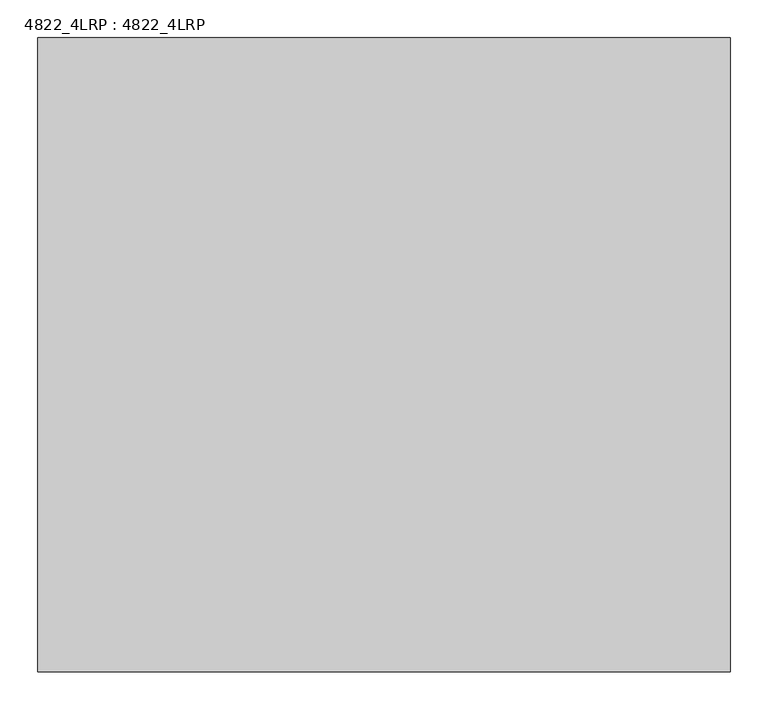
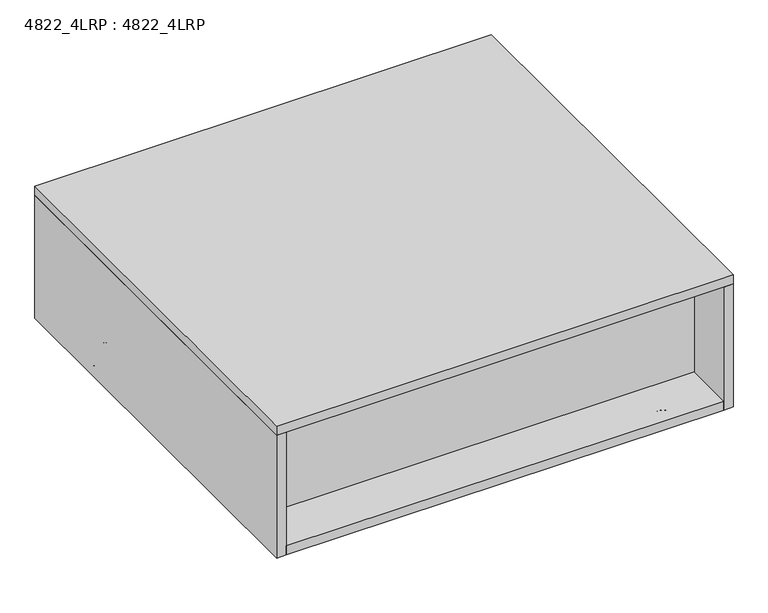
"""IFC4 building model written with IfcOpenShell, lengths in millimetres: furniture geometry, 4822_4LRP : 4822_4LRP."""

from ifc_helpers import new_model, si_unit, point, frame, frame_2d, origin, place, context, project, spatial, polyline, circle_curve, ellipse_curve, trimmed, segment, composite_curve, outline, extrude, source, transform, mapped, element, save
from ifc_brep_helpers import plane_surface, cylinder_surface, revolved_surface, advanced_brep


def furniture_4822_4lrp_4822_4lrp_19047895(model_context):
    return source(origin(), model_context, "Body", "SolidModel", [
        advanced_brep(
        [(358.1478666, -749.3, 0.0), (378.4521334, -749.3, 0.0), (368.3, -749.3, 0.0), (357.8225, -749.3, 5.08), (378.7775, -749.3, 5.08), (357.8225, -749.3, 9.0481974), (378.7775, -749.3, 9.0481974), (358.6168026, -749.3, 9.8425), (377.9831974, -749.3, 9.8425), (368.3, -749.3, 9.8425)],
        [
            (0, 1, circle_curve(frame((368.3, -749.3, 0.0), z_axis=(0.0, 0.0, -1.0), x_axis=(1.0, 0.0, 0.0)), 10.1521334)),
            (1, 2),
            (2, 0),
            (1, 0, circle_curve(frame((368.3, -749.3, 0.0), z_axis=(0.0, 0.0, -1.0), x_axis=(1.0, 0.0, 0.0)), 10.1521334)),
            (3, 4, circle_curve(frame((368.3, -749.3, 5.08), z_axis=(0.0, 0.0, -1.0), x_axis=(1.0, 0.0, 0.0)), 10.4775)),
            (4, 1, circle_curve(frame((378.4521334, -749.3, 2.5504196), z_axis=(0.0, 1.0, 0.0), x_axis=(1.0, 0.0, 0.0)), 2.5504196)),
            (0, 3, circle_curve(frame((358.1478666, -749.3, 2.5504196), z_axis=(0.0, 1.0, 0.0), x_axis=(-1.0, 0.0, 0.0)), 2.5504196)),
            (4, 3, circle_curve(frame((368.3, -749.3, 5.08), z_axis=(0.0, 0.0, -1.0), x_axis=(1.0, 0.0, 0.0)), 10.4775)),
            (5, 6, circle_curve(frame((368.3, -749.3, 9.0481974), z_axis=(0.0, 0.0, -1.0), x_axis=(1.0, 0.0, 0.0)), 10.4775)),
            (6, 4),
            (3, 5),
            (6, 5, circle_curve(frame((368.3, -749.3, 9.0481974), z_axis=(0.0, 0.0, -1.0), x_axis=(1.0, 0.0, 0.0)), 10.4775)),
            (7, 8, circle_curve(frame((368.3, -749.3, 9.8425), z_axis=(0.0, 0.0, -1.0), x_axis=(1.0, 0.0, 0.0)), 9.6831974)),
            (8, 6, circle_curve(frame((377.9831974, -749.3, 9.0481974), z_axis=(0.0, 1.0, 0.0), x_axis=(1.0, 0.0, 0.0)), 0.7943026)),
            (5, 7, circle_curve(frame((358.6168026, -749.3, 9.0481974), z_axis=(0.0, 1.0, 0.0), x_axis=(-1.0, 0.0, 0.0)), 0.7943026)),
            (8, 7, circle_curve(frame((368.3, -749.3, 9.8425), z_axis=(0.0, 0.0, -1.0), x_axis=(1.0, 0.0, 0.0)), 9.6831974)),
            (9, 8),
            (7, 9),
        ],
        [
            plane_surface(frame((368.3, -749.3, 0.0), z_axis=(0.0, 0.0, -1.0), x_axis=(1.0, 0.0, 0.0))),
            revolved_surface(trimmed(ellipse_curve(frame((378.4521334, -749.3, 2.5504196), z_axis=(0.0, -1.0, 0.0), x_axis=(1.0, 0.0, 0.0)), 2.5504196, 2.5504196), [point((378.4521334, -749.3, 0.0))], [point((378.7775, -749.3, 5.08))], True, "CARTESIAN"), (368.3, -749.3, 9.8425), (0.0, 0.0, 1.0)),
            cylinder_surface(frame((368.3, -749.3, 9.8425), z_axis=(0.0, 0.0, 1.0), x_axis=(1.0, 0.0, 0.0)), 10.4775),
            revolved_surface(trimmed(ellipse_curve(frame((377.9831974, -749.3, 9.0481974), z_axis=(0.0, -1.0, 0.0), x_axis=(1.0, 0.0, 0.0)), 0.7943026, 0.7943026), [point((378.7775, -749.3, 9.0481974))], [point((377.9831974, -749.3, 9.8425))], True, "CARTESIAN"), (368.3, -749.3, 9.8425), (0.0, 0.0, 1.0)),
            plane_surface(frame((368.3, -749.3, 9.8425), z_axis=(0.0, 0.0, 1.0), x_axis=(1.0, 0.0, 0.0))),
        ],
        [
            (0, [[1, 2, 3]]),
            (0, [[4, -3, -2]]),
            (1, [[5, 6, -1, 7]]),
            (1, [[8, -7, -4, -6]]),
            (2, [[9, 10, -5, 11]]),
            (2, [[12, -11, -8, -10]]),
            (3, [[13, 14, -9, 15]]),
            (3, [[16, -15, -12, -14]]),
            (4, [[17, -13, 18]]),
            (4, [[-18, -16, -17]]),
        ],
    ),
        advanced_brep(
        [(415.925, -38.1, 41.5925), (320.675, -38.1, 41.5925), (317.5, -41.275, 41.5925), (317.5, -136.525, 41.5925), (320.675, -139.7, 41.5925), (415.925, -139.7, 41.5925), (419.1, -136.525, 41.5925), (419.1, -41.275, 41.5925), (318.77, -41.275, 11.1125), (320.675, -39.37, 11.1125), (415.925, -39.37, 11.1125), (417.83, -41.275, 11.1125), (417.83, -136.525, 11.1125), (415.925, -138.43, 11.1125), (320.675, -138.43, 11.1125), (318.77, -136.525, 11.1125), (415.925, -38.1, 11.1125), (320.675, -38.1, 11.1125), (317.5, -41.275, 11.1125), (317.5, -136.525, 11.1125), (320.675, -139.7, 11.1125), (415.925, -139.7, 11.1125), (419.1, -136.525, 11.1125), (419.1, -41.275, 11.1125), (320.675, -39.37, 9.8425), (318.77, -41.275, 9.8425), (415.925, -39.37, 9.8425), (417.83, -41.275, 9.8425), (417.83, -136.525, 9.8425), (415.925, -138.43, 9.8425), (320.675, -138.43, 9.8425), (318.77, -136.525, 9.8425)],
        [
            (0, 1),
            (1, 2, circle_curve(frame((320.675, -41.275, 41.5925), z_axis=(0.0, 0.0, 1.0), x_axis=(1.0, 0.0, 0.0)), 3.175)),
            (2, 3),
            (3, 4, circle_curve(frame((320.675, -136.525, 41.5925), z_axis=(0.0, 0.0, 1.0), x_axis=(1.0, 0.0, 0.0)), 3.175)),
            (4, 5),
            (5, 6, circle_curve(frame((415.925, -136.525, 41.5925), z_axis=(0.0, 0.0, 1.0), x_axis=(1.0, 0.0, 0.0)), 3.175)),
            (6, 7),
            (7, 0, circle_curve(frame((415.925, -41.275, 41.5925), z_axis=(0.0, 0.0, 1.0), x_axis=(1.0, 0.0, 0.0)), 3.175)),
            (8, 9, circle_curve(frame((320.675, -41.275, 11.1125), z_axis=(0.0, 0.0, -1.0), x_axis=(-1.0, 0.0, 0.0)), 1.905)),
            (9, 10),
            (10, 11, circle_curve(frame((415.925, -41.275, 11.1125), z_axis=(0.0, 0.0, -1.0), x_axis=(0.0, 1.0, 0.0)), 1.905)),
            (11, 12),
            (12, 13, circle_curve(frame((415.925, -136.525, 11.1125), z_axis=(0.0, 0.0, -1.0), x_axis=(1.0, 0.0, 0.0)), 1.905)),
            (13, 14),
            (14, 15, circle_curve(frame((320.675, -136.525, 11.1125), z_axis=(0.0, 0.0, -1.0), x_axis=(0.0, -1.0, 0.0)), 1.905)),
            (15, 8),
            (0, 16),
            (16, 17),
            (17, 1),
            (17, 18, circle_curve(frame((320.675, -41.275, 11.1125), z_axis=(0.0, 0.0, 1.0), x_axis=(1.0, 0.0, 0.0)), 3.175)),
            (18, 2),
            (18, 19),
            (19, 3),
            (19, 20, circle_curve(frame((320.675, -136.525, 11.1125), z_axis=(0.0, 0.0, 1.0), x_axis=(1.0, 0.0, 0.0)), 3.175)),
            (20, 4),
            (20, 21),
            (21, 5),
            (21, 22, circle_curve(frame((415.925, -136.525, 11.1125), z_axis=(0.0, 0.0, 1.0), x_axis=(1.0, 0.0, 0.0)), 3.175)),
            (22, 6),
            (22, 23),
            (23, 7),
            (23, 16, circle_curve(frame((415.925, -41.275, 11.1125), z_axis=(0.0, 0.0, 1.0), x_axis=(1.0, 0.0, 0.0)), 3.175)),
            (24, 25, circle_curve(frame((320.675, -41.275, 9.8425), z_axis=(0.0, 0.0, 1.0), x_axis=(-1.0, 0.0, 0.0)), 1.905)),
            (25, 18, circle_curve(frame((318.77, -41.275, 11.1125), z_axis=(0.0, 1.0, 0.0), x_axis=(1.0, 0.0, 0.0)), 1.27)),
            (17, 24, circle_curve(frame((320.675, -39.37, 11.1125), z_axis=(-1.0, 0.0, 0.0), x_axis=(0.0, -1.0, 0.0)), 1.27)),
            (16, 26, circle_curve(frame((415.925, -39.37, 11.1125), z_axis=(-1.0, 0.0, 0.0), x_axis=(0.0, -1.0, 0.0)), 1.27)),
            (26, 24),
            (23, 27, circle_curve(frame((417.83, -41.275, 11.1125), z_axis=(0.0, 1.0, 0.0), x_axis=(-1.0, 0.0, 0.0)), 1.27)),
            (27, 26, circle_curve(frame((415.925, -41.275, 9.8425), z_axis=(0.0, 0.0, 1.0), x_axis=(0.0, 1.0, 0.0)), 1.905)),
            (22, 28, circle_curve(frame((417.83, -136.525, 11.1125), z_axis=(0.0, 1.0, 0.0), x_axis=(-1.0, 0.0, 0.0)), 1.27)),
            (28, 27),
            (21, 29, circle_curve(frame((415.925, -138.43, 11.1125), z_axis=(1.0, 0.0, 0.0), x_axis=(0.0, 1.0, 0.0)), 1.27)),
            (29, 28, circle_curve(frame((415.925, -136.525, 9.8425), z_axis=(0.0, 0.0, 1.0), x_axis=(1.0, 0.0, 0.0)), 1.905)),
            (20, 30, circle_curve(frame((320.675, -138.43, 11.1125), z_axis=(1.0, 0.0, 0.0), x_axis=(0.0, 1.0, 0.0)), 1.27)),
            (30, 29),
            (19, 31, circle_curve(frame((318.77, -136.525, 11.1125), z_axis=(0.0, -1.0, 0.0), x_axis=(1.0, 0.0, 0.0)), 1.27)),
            (31, 30, circle_curve(frame((320.675, -136.525, 9.8425), z_axis=(0.0, 0.0, 1.0), x_axis=(0.0, -1.0, 0.0)), 1.905)),
            (25, 31),
            (24, 9),
            (8, 25),
            (26, 10),
            (27, 11),
            (28, 12),
            (29, 13),
            (30, 14),
            (31, 15),
        ],
        [
            plane_surface(frame((320.675, -38.1, 41.5925), z_axis=(0.0, 0.0, 1.0), x_axis=(-1.0, 0.0, 0.0))),
            plane_surface(frame((320.675, -38.1, 11.1125), z_axis=(0.0, 0.0, -1.0), x_axis=(1.0, 0.0, 0.0))),
            plane_surface(frame((415.925, -38.1, 41.5925), z_axis=(0.0, 1.0, 0.0), x_axis=(0.0, 0.0, -1.0))),
            cylinder_surface(frame((320.675, -41.275, 11.1125), z_axis=(0.0, 0.0, 1.0), x_axis=(1.0, 0.0, 0.0)), 3.175),
            plane_surface(frame((317.5, -41.275, 41.5925), z_axis=(-1.0, 0.0, 0.0), x_axis=(0.0, 0.0, -1.0))),
            cylinder_surface(frame((320.675, -136.525, 11.1125), z_axis=(0.0, 0.0, 1.0), x_axis=(1.0, 0.0, 0.0)), 3.175),
            plane_surface(frame((320.675, -139.7, 41.5925), z_axis=(0.0, -1.0, 0.0), x_axis=(0.0, 0.0, -1.0))),
            cylinder_surface(frame((415.925, -136.525, 11.1125), z_axis=(0.0, 0.0, 1.0), x_axis=(1.0, 0.0, 0.0)), 3.175),
            plane_surface(frame((419.1, -136.525, 41.5925), z_axis=(1.0, 0.0, 0.0), x_axis=(0.0, 0.0, -1.0))),
            cylinder_surface(frame((415.925, -41.275, 11.1125), z_axis=(0.0, 0.0, 1.0), x_axis=(1.0, 0.0, 0.0)), 3.175),
            revolved_surface(trimmed(ellipse_curve(frame((318.77, -41.275, 11.1125), z_axis=(0.0, -1.0, 0.0), x_axis=(1.0, 0.0, 0.0)), 1.27, 1.27), [point((317.5, -41.275, 11.1125))], [point((318.77, -41.275, 9.8425))], True, "CARTESIAN"), (320.675, -41.275, 11.1125), (0.0, 0.0, -1.0)),
            cylinder_surface(frame((320.675, -39.37, 11.1125), z_axis=(-1.0, 0.0, 0.0), x_axis=(0.0, -1.0, 0.0)), 1.27),
            revolved_surface(trimmed(ellipse_curve(frame((415.925, -39.37, 11.1125), z_axis=(-1.0, 0.0, 0.0), x_axis=(0.0, -1.0, 0.0)), 1.27, 1.27), [point((415.925, -38.1, 11.1125))], [point((415.925, -39.37, 9.8425))], True, "CARTESIAN"), (415.925, -41.275, 11.1125), (0.0, 0.0, -1.0)),
            cylinder_surface(frame((417.83, -41.275, 11.1125), z_axis=(0.0, 1.0, 0.0), x_axis=(-1.0, 0.0, 0.0)), 1.27),
            revolved_surface(trimmed(ellipse_curve(frame((417.83, -136.525, 11.1125), z_axis=(0.0, 1.0, 0.0), x_axis=(-1.0, 0.0, 0.0)), 1.27, 1.27), [point((419.1, -136.525, 11.1125))], [point((417.83, -136.525, 9.8425))], True, "CARTESIAN"), (415.925, -136.525, 11.1125), (0.0, 0.0, -1.0)),
            cylinder_surface(frame((415.925, -138.43, 11.1125), z_axis=(1.0, 0.0, 0.0), x_axis=(0.0, 1.0, 0.0)), 1.27),
            revolved_surface(trimmed(ellipse_curve(frame((320.675, -138.43, 11.1125), z_axis=(1.0, 0.0, 0.0), x_axis=(0.0, 1.0, 0.0)), 1.27, 1.27), [point((320.675, -139.7, 11.1125))], [point((320.675, -138.43, 9.8425))], True, "CARTESIAN"), (320.675, -136.525, 11.1125), (0.0, 0.0, -1.0)),
            cylinder_surface(frame((318.77, -136.525, 11.1125), z_axis=(0.0, -1.0, 0.0), x_axis=(1.0, 0.0, 0.0)), 1.27),
            revolved_surface(polyline([(318.77000000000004, -41.275, 9.8425), (318.77000000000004, -41.275, 11.1125)]), (320.675, -41.275, 11.1125), (0.0, 0.0, -1.0)),
            plane_surface(frame((320.675, -39.37, 9.8425), z_axis=(0.0, -1.0, 0.0), x_axis=(1.0, 0.0, 0.0))),
            revolved_surface(polyline([(415.925, -39.37, 9.8425), (415.925, -39.37, 11.1125)]), (415.925, -41.275, 11.1125), (0.0, 0.0, -1.0)),
            plane_surface(frame((417.83, -41.275, 9.8425), z_axis=(-1.0, 0.0, 0.0), x_axis=(0.0, -1.0, 0.0))),
            revolved_surface(polyline([(417.83, -136.525, 9.8425), (417.83, -136.525, 11.1125)]), (415.925, -136.525, 11.1125), (0.0, 0.0, -1.0)),
            plane_surface(frame((415.925, -138.43, 9.8425), z_axis=(0.0, 1.0, 0.0), x_axis=(-1.0, 0.0, 0.0))),
            revolved_surface(polyline([(320.675, -138.43, 9.8425), (320.675, -138.43, 11.1125)]), (320.675, -136.525, 11.1125), (0.0, 0.0, -1.0)),
            plane_surface(frame((318.77, -136.525, 9.8425), z_axis=(1.0, 0.0, 0.0), x_axis=(0.0, 1.0, 0.0))),
        ],
        [
            (0, [[1, 2, 3, 4, 5, 6, 7, 8]]),
            (1, [[9, 10, 11, 12, 13, 14, 15, 16]]),
            (2, [[-1, 17, 18, 19]]),
            (3, [[-2, -19, 20, 21]]),
            (4, [[-3, -21, 22, 23]]),
            (5, [[-4, -23, 24, 25]]),
            (6, [[-5, -25, 26, 27]]),
            (7, [[-6, -27, 28, 29]]),
            (8, [[-7, -29, 30, 31]]),
            (9, [[-8, -31, 32, -17]]),
            (10, [[33, 34, -20, 35]]),
            (11, [[-35, -18, 36, 37]]),
            (12, [[-36, -32, 38, 39]]),
            (13, [[-38, -30, 40, 41]]),
            (14, [[-40, -28, 42, 43]]),
            (15, [[-42, -26, 44, 45]]),
            (16, [[-44, -24, 46, 47]]),
            (17, [[-34, 48, -46, -22]]),
            (18, [[-33, 49, -9, 50]]),
            (19, [[-37, 51, -10, -49]]),
            (20, [[-39, 52, -11, -51]]),
            (21, [[-41, 53, -12, -52]]),
            (22, [[-43, 54, -13, -53]]),
            (23, [[-45, 55, -14, -54]]),
            (24, [[-47, 56, -15, -55]]),
            (25, [[-48, -50, -16, -56]]),
        ],
    ),
        extrude(outline(composite_curve([segment(trimmed(circle_curve(frame_2d((320.675, -136.525)), 1.905), [point((320.675, -138.43))], [point((318.77, -136.525))], False, "CARTESIAN"), True, "CONTINUOUS"), segment(polyline([(318.77, -136.525), (318.77, -41.275)]), True, "CONTINUOUS"), segment(trimmed(circle_curve(frame_2d((320.675, -41.275)), 1.905), [point((318.77, -41.275))], [point((320.675, -39.37))], False, "CARTESIAN"), True, "CONTINUOUS"), segment(polyline([(320.675, -39.37), (415.925, -39.37)]), True, "CONTINUOUS"), segment(trimmed(circle_curve(frame_2d((415.925, -41.275)), 1.905), [point((415.925, -39.37))], [point((417.83, -41.275))], False, "CARTESIAN"), True, "CONTINUOUS"), segment(polyline([(417.83, -41.275), (417.83, -136.525)]), True, "CONTINUOUS"), segment(trimmed(circle_curve(frame_2d((415.925, -136.525)), 1.905), [point((417.83, -136.525))], [point((415.925, -138.43))], False, "CARTESIAN"), True, "CONTINUOUS"), segment(polyline([(415.925, -138.43), (320.675, -138.43)]), True, "CONTINUOUS")], self_intersect=False)), frame((0.0, 0.0, 9.8425), z_axis=(0.0, 0.0, 1.0), x_axis=(1.0, 0.0, 0.0)), (0.0, 0.0, 1.0), 1.27),
        advanced_brep(
        [(358.1478666, -88.9, 0.0), (378.4521334, -88.9, 0.0), (368.3, -88.9, 0.0), (357.8225, -88.9, 5.08), (378.7775, -88.9, 5.08), (357.8225, -88.9, 9.0481974), (378.7775, -88.9, 9.0481974), (358.6168026, -88.9, 9.8425), (377.9831974, -88.9, 9.8425), (368.3, -88.9, 9.8425)],
        [
            (0, 1, circle_curve(frame((368.3, -88.9, 0.0), z_axis=(0.0, 0.0, -1.0), x_axis=(1.0, 0.0, 0.0)), 10.1521334)),
            (1, 2),
            (2, 0),
            (1, 0, circle_curve(frame((368.3, -88.9, 0.0), z_axis=(0.0, 0.0, -1.0), x_axis=(1.0, 0.0, 0.0)), 10.1521334)),
            (3, 4, circle_curve(frame((368.3, -88.9, 5.08), z_axis=(0.0, 0.0, -1.0), x_axis=(1.0, 0.0, 0.0)), 10.4775)),
            (4, 1, circle_curve(frame((378.4521334, -88.9, 2.5504196), z_axis=(0.0, 1.0, 0.0), x_axis=(1.0, 0.0, 0.0)), 2.5504196)),
            (0, 3, circle_curve(frame((358.1478666, -88.9, 2.5504196), z_axis=(0.0, 1.0, 0.0), x_axis=(-1.0, 0.0, 0.0)), 2.5504196)),
            (4, 3, circle_curve(frame((368.3, -88.9, 5.08), z_axis=(0.0, 0.0, -1.0), x_axis=(1.0, 0.0, 0.0)), 10.4775)),
            (5, 6, circle_curve(frame((368.3, -88.9, 9.0481974), z_axis=(0.0, 0.0, -1.0), x_axis=(1.0, 0.0, 0.0)), 10.4775)),
            (6, 4),
            (3, 5),
            (6, 5, circle_curve(frame((368.3, -88.9, 9.0481974), z_axis=(0.0, 0.0, -1.0), x_axis=(1.0, 0.0, 0.0)), 10.4775)),
            (7, 8, circle_curve(frame((368.3, -88.9, 9.8425), z_axis=(0.0, 0.0, -1.0), x_axis=(1.0, 0.0, 0.0)), 9.6831974)),
            (8, 6, circle_curve(frame((377.9831974, -88.9, 9.0481974), z_axis=(0.0, 1.0, 0.0), x_axis=(1.0, 0.0, 0.0)), 0.7943026)),
            (5, 7, circle_curve(frame((358.6168026, -88.9, 9.0481974), z_axis=(0.0, 1.0, 0.0), x_axis=(-1.0, 0.0, 0.0)), 0.7943026)),
            (8, 7, circle_curve(frame((368.3, -88.9, 9.8425), z_axis=(0.0, 0.0, -1.0), x_axis=(1.0, 0.0, 0.0)), 9.6831974)),
            (9, 8),
            (7, 9),
        ],
        [
            plane_surface(frame((368.3, -88.9, 0.0), z_axis=(0.0, 0.0, -1.0), x_axis=(1.0, 0.0, 0.0))),
            revolved_surface(trimmed(ellipse_curve(frame((378.4521334, -88.9, 2.5504196), z_axis=(0.0, -1.0, 0.0), x_axis=(1.0, 0.0, 0.0)), 2.5504196, 2.5504196), [point((378.4521334, -88.9, 0.0))], [point((378.7775, -88.9, 5.08))], True, "CARTESIAN"), (368.3, -88.9, 9.8425), (0.0, 0.0, 1.0)),
            cylinder_surface(frame((368.3, -88.9, 9.8425), z_axis=(0.0, 0.0, 1.0), x_axis=(1.0, 0.0, 0.0)), 10.4775),
            revolved_surface(trimmed(ellipse_curve(frame((377.9831974, -88.9, 9.0481974), z_axis=(0.0, -1.0, 0.0), x_axis=(1.0, 0.0, 0.0)), 0.7943026, 0.7943026), [point((378.7775, -88.9, 9.0481974))], [point((377.9831974, -88.9, 9.8425))], True, "CARTESIAN"), (368.3, -88.9, 9.8425), (0.0, 0.0, 1.0)),
            plane_surface(frame((368.3, -88.9, 9.8425), z_axis=(0.0, 0.0, 1.0), x_axis=(1.0, 0.0, 0.0))),
        ],
        [
            (0, [[1, 2, 3]]),
            (0, [[4, -3, -2]]),
            (1, [[5, 6, -1, 7]]),
            (1, [[8, -7, -4, -6]]),
            (2, [[9, 10, -5, 11]]),
            (2, [[12, -11, -8, -10]]),
            (3, [[13, 14, -9, 15]]),
            (3, [[16, -15, -12, -14]]),
            (4, [[17, -13, 18]]),
            (4, [[-18, -16, -17]]),
        ],
    ),
        advanced_brep(
        [(-320.675, -38.1, 41.5925), (-415.925, -38.1, 41.5925), (-419.1, -41.275, 41.5925), (-419.1, -136.525, 41.5925), (-415.925, -139.7, 41.5925), (-320.675, -139.7, 41.5925), (-317.5, -136.525, 41.5925), (-317.5, -41.275, 41.5925), (-417.83, -41.275, 11.1125), (-415.925, -39.37, 11.1125), (-320.675, -39.37, 11.1125), (-318.77, -41.275, 11.1125), (-318.77, -136.525, 11.1125), (-320.675, -138.43, 11.1125), (-415.925, -138.43, 11.1125), (-417.83, -136.525, 11.1125), (-320.675, -38.1, 11.1125), (-415.925, -38.1, 11.1125), (-419.1, -41.275, 11.1125), (-419.1, -136.525, 11.1125), (-415.925, -139.7, 11.1125), (-320.675, -139.7, 11.1125), (-317.5, -136.525, 11.1125), (-317.5, -41.275, 11.1125), (-415.925, -39.37, 9.8425), (-417.83, -41.275, 9.8425), (-320.675, -39.37, 9.8425), (-318.77, -41.275, 9.8425), (-318.77, -136.525, 9.8425), (-320.675, -138.43, 9.8425), (-415.925, -138.43, 9.8425), (-417.83, -136.525, 9.8425)],
        [
            (0, 1),
            (1, 2, circle_curve(frame((-415.925, -41.275, 41.5925), z_axis=(0.0, 0.0, 1.0), x_axis=(1.0, 0.0, 0.0)), 3.175)),
            (2, 3),
            (3, 4, circle_curve(frame((-415.925, -136.525, 41.5925), z_axis=(0.0, 0.0, 1.0), x_axis=(1.0, 0.0, 0.0)), 3.175)),
            (4, 5),
            (5, 6, circle_curve(frame((-320.675, -136.525, 41.5925), z_axis=(0.0, 0.0, 1.0), x_axis=(1.0, 0.0, 0.0)), 3.175)),
            (6, 7),
            (7, 0, circle_curve(frame((-320.675, -41.275, 41.5925), z_axis=(0.0, 0.0, 1.0), x_axis=(1.0, 0.0, 0.0)), 3.175)),
            (8, 9, circle_curve(frame((-415.925, -41.275, 11.1125), z_axis=(0.0, 0.0, -1.0), x_axis=(-1.0, 0.0, 0.0)), 1.905)),
            (9, 10),
            (10, 11, circle_curve(frame((-320.675, -41.275, 11.1125), z_axis=(0.0, 0.0, -1.0), x_axis=(0.0, 1.0, 0.0)), 1.905)),
            (11, 12),
            (12, 13, circle_curve(frame((-320.675, -136.525, 11.1125), z_axis=(0.0, 0.0, -1.0), x_axis=(1.0, 0.0, 0.0)), 1.905)),
            (13, 14),
            (14, 15, circle_curve(frame((-415.925, -136.525, 11.1125), z_axis=(0.0, 0.0, -1.0), x_axis=(0.0, -1.0, 0.0)), 1.905)),
            (15, 8),
            (0, 16),
            (16, 17),
            (17, 1),
            (17, 18, circle_curve(frame((-415.925, -41.275, 11.1125), z_axis=(0.0, 0.0, 1.0), x_axis=(1.0, 0.0, 0.0)), 3.175)),
            (18, 2),
            (18, 19),
            (19, 3),
            (19, 20, circle_curve(frame((-415.925, -136.525, 11.1125), z_axis=(0.0, 0.0, 1.0), x_axis=(1.0, 0.0, 0.0)), 3.175)),
            (20, 4),
            (20, 21),
            (21, 5),
            (21, 22, circle_curve(frame((-320.675, -136.525, 11.1125), z_axis=(0.0, 0.0, 1.0), x_axis=(1.0, 0.0, 0.0)), 3.175)),
            (22, 6),
            (22, 23),
            (23, 7),
            (23, 16, circle_curve(frame((-320.675, -41.275, 11.1125), z_axis=(0.0, 0.0, 1.0), x_axis=(1.0, 0.0, 0.0)), 3.175)),
            (24, 25, circle_curve(frame((-415.925, -41.275, 9.8425), z_axis=(0.0, 0.0, 1.0), x_axis=(-1.0, 0.0, 0.0)), 1.905)),
            (25, 18, circle_curve(frame((-417.83, -41.275, 11.1125), z_axis=(0.0, 1.0, 0.0), x_axis=(1.0, 0.0, 0.0)), 1.27)),
            (17, 24, circle_curve(frame((-415.925, -39.37, 11.1125), z_axis=(-1.0, 0.0, 0.0), x_axis=(0.0, -1.0, 0.0)), 1.27)),
            (16, 26, circle_curve(frame((-320.675, -39.37, 11.1125), z_axis=(-1.0, 0.0, 0.0), x_axis=(0.0, -1.0, 0.0)), 1.27)),
            (26, 24),
            (23, 27, circle_curve(frame((-318.77, -41.275, 11.1125), z_axis=(0.0, 1.0, 0.0), x_axis=(-1.0, 0.0, 0.0)), 1.27)),
            (27, 26, circle_curve(frame((-320.675, -41.275, 9.8425), z_axis=(0.0, 0.0, 1.0), x_axis=(0.0, 1.0, 0.0)), 1.905)),
            (22, 28, circle_curve(frame((-318.77, -136.525, 11.1125), z_axis=(0.0, 1.0, 0.0), x_axis=(-1.0, 0.0, 0.0)), 1.27)),
            (28, 27),
            (21, 29, circle_curve(frame((-320.675, -138.43, 11.1125), z_axis=(1.0, 0.0, 0.0), x_axis=(0.0, 1.0, 0.0)), 1.27)),
            (29, 28, circle_curve(frame((-320.675, -136.525, 9.8425), z_axis=(0.0, 0.0, 1.0), x_axis=(1.0, 0.0, 0.0)), 1.905)),
            (20, 30, circle_curve(frame((-415.925, -138.43, 11.1125), z_axis=(1.0, 0.0, 0.0), x_axis=(0.0, 1.0, 0.0)), 1.27)),
            (30, 29),
            (19, 31, circle_curve(frame((-417.83, -136.525, 11.1125), z_axis=(0.0, -1.0, 0.0), x_axis=(1.0, 0.0, 0.0)), 1.27)),
            (31, 30, circle_curve(frame((-415.925, -136.525, 9.8425), z_axis=(0.0, 0.0, 1.0), x_axis=(0.0, -1.0, 0.0)), 1.905)),
            (25, 31),
            (24, 9),
            (8, 25),
            (26, 10),
            (27, 11),
            (28, 12),
            (29, 13),
            (30, 14),
            (31, 15),
        ],
        [
            plane_surface(frame((-415.925, -38.1, 41.5925), z_axis=(0.0, 0.0, 1.0), x_axis=(-1.0, 0.0, 0.0))),
            plane_surface(frame((-415.925, -38.1, 11.1125), z_axis=(0.0, 0.0, -1.0), x_axis=(1.0, 0.0, 0.0))),
            plane_surface(frame((-320.675, -38.1, 41.5925), z_axis=(0.0, 1.0, 0.0), x_axis=(0.0, 0.0, -1.0))),
            cylinder_surface(frame((-415.925, -41.275, 11.1125), z_axis=(0.0, 0.0, 1.0), x_axis=(1.0, 0.0, 0.0)), 3.175),
            plane_surface(frame((-419.1, -41.275, 41.5925), z_axis=(-1.0, 0.0, 0.0), x_axis=(0.0, 0.0, -1.0))),
            cylinder_surface(frame((-415.925, -136.525, 11.1125), z_axis=(0.0, 0.0, 1.0), x_axis=(1.0, 0.0, 0.0)), 3.175),
            plane_surface(frame((-415.925, -139.7, 41.5925), z_axis=(0.0, -1.0, 0.0), x_axis=(0.0, 0.0, -1.0))),
            cylinder_surface(frame((-320.675, -136.525, 11.1125), z_axis=(0.0, 0.0, 1.0), x_axis=(1.0, 0.0, 0.0)), 3.175),
            plane_surface(frame((-317.5, -136.525, 41.5925), z_axis=(1.0, 0.0, 0.0), x_axis=(0.0, 0.0, -1.0))),
            cylinder_surface(frame((-320.675, -41.275, 11.1125), z_axis=(0.0, 0.0, 1.0), x_axis=(1.0, 0.0, 0.0)), 3.175),
            revolved_surface(trimmed(ellipse_curve(frame((-417.83, -41.275, 11.1125), z_axis=(0.0, -1.0, 0.0), x_axis=(1.0, 0.0, 0.0)), 1.27, 1.27), [point((-419.1, -41.275, 11.1125))], [point((-417.83, -41.275, 9.8425))], True, "CARTESIAN"), (-415.925, -41.275, 11.1125), (0.0, 0.0, -1.0)),
            cylinder_surface(frame((-415.925, -39.37, 11.1125), z_axis=(-1.0, 0.0, 0.0), x_axis=(0.0, -1.0, 0.0)), 1.27),
            revolved_surface(trimmed(ellipse_curve(frame((-320.675, -39.37, 11.1125), z_axis=(-1.0, 0.0, 0.0), x_axis=(0.0, -1.0, 0.0)), 1.27, 1.27), [point((-320.675, -38.1, 11.1125))], [point((-320.675, -39.37, 9.8425))], True, "CARTESIAN"), (-320.675, -41.275, 11.1125), (0.0, 0.0, -1.0)),
            cylinder_surface(frame((-318.77, -41.275, 11.1125), z_axis=(0.0, 1.0, 0.0), x_axis=(-1.0, 0.0, 0.0)), 1.27),
            revolved_surface(trimmed(ellipse_curve(frame((-318.77, -136.525, 11.1125), z_axis=(0.0, 1.0, 0.0), x_axis=(-1.0, 0.0, 0.0)), 1.27, 1.27), [point((-317.5, -136.525, 11.1125))], [point((-318.77, -136.525, 9.8425))], True, "CARTESIAN"), (-320.675, -136.525, 11.1125), (0.0, 0.0, -1.0)),
            cylinder_surface(frame((-320.675, -138.43, 11.1125), z_axis=(1.0, 0.0, 0.0), x_axis=(0.0, 1.0, 0.0)), 1.27),
            revolved_surface(trimmed(ellipse_curve(frame((-415.925, -138.43, 11.1125), z_axis=(1.0, 0.0, 0.0), x_axis=(0.0, 1.0, 0.0)), 1.27, 1.27), [point((-415.925, -139.7, 11.1125))], [point((-415.925, -138.43, 9.8425))], True, "CARTESIAN"), (-415.925, -136.525, 11.1125), (0.0, 0.0, -1.0)),
            cylinder_surface(frame((-417.83, -136.525, 11.1125), z_axis=(0.0, -1.0, 0.0), x_axis=(1.0, 0.0, 0.0)), 1.27),
            revolved_surface(polyline([(-417.83, -41.275, 9.8425), (-417.83, -41.275, 11.1125)]), (-415.925, -41.275, 11.1125), (0.0, 0.0, -1.0)),
            plane_surface(frame((-415.925, -39.37, 9.8425), z_axis=(0.0, -1.0, 0.0), x_axis=(1.0, 0.0, 0.0))),
            revolved_surface(polyline([(-320.675, -39.37, 9.8425), (-320.675, -39.37, 11.1125)]), (-320.675, -41.275, 11.1125), (0.0, 0.0, -1.0)),
            plane_surface(frame((-318.77, -41.275, 9.8425), z_axis=(-1.0, 0.0, 0.0), x_axis=(0.0, -1.0, 0.0))),
            revolved_surface(polyline([(-318.77000000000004, -136.525, 9.8425), (-318.77000000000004, -136.525, 11.1125)]), (-320.675, -136.525, 11.1125), (0.0, 0.0, -1.0)),
            plane_surface(frame((-320.675, -138.43, 9.8425), z_axis=(0.0, 1.0, 0.0), x_axis=(-1.0, 0.0, 0.0))),
            revolved_surface(polyline([(-415.925, -138.43, 9.8425), (-415.925, -138.43, 11.1125)]), (-415.925, -136.525, 11.1125), (0.0, 0.0, -1.0)),
            plane_surface(frame((-417.83, -136.525, 9.8425), z_axis=(1.0, 0.0, 0.0), x_axis=(0.0, 1.0, 0.0))),
        ],
        [
            (0, [[1, 2, 3, 4, 5, 6, 7, 8]]),
            (1, [[9, 10, 11, 12, 13, 14, 15, 16]]),
            (2, [[-1, 17, 18, 19]]),
            (3, [[-2, -19, 20, 21]]),
            (4, [[-3, -21, 22, 23]]),
            (5, [[-4, -23, 24, 25]]),
            (6, [[-5, -25, 26, 27]]),
            (7, [[-6, -27, 28, 29]]),
            (8, [[-7, -29, 30, 31]]),
            (9, [[-8, -31, 32, -17]]),
            (10, [[33, 34, -20, 35]]),
            (11, [[-35, -18, 36, 37]]),
            (12, [[-36, -32, 38, 39]]),
            (13, [[-38, -30, 40, 41]]),
            (14, [[-40, -28, 42, 43]]),
            (15, [[-42, -26, 44, 45]]),
            (16, [[-44, -24, 46, 47]]),
            (17, [[-34, 48, -46, -22]]),
            (18, [[-33, 49, -9, 50]]),
            (19, [[-37, 51, -10, -49]]),
            (20, [[-39, 52, -11, -51]]),
            (21, [[-41, 53, -12, -52]]),
            (22, [[-43, 54, -13, -53]]),
            (23, [[-45, 55, -14, -54]]),
            (24, [[-47, 56, -15, -55]]),
            (25, [[-48, -50, -16, -56]]),
        ],
    ),
        extrude(outline(composite_curve([segment(trimmed(circle_curve(frame_2d((-415.925, -136.525)), 1.905), [point((-415.925, -138.43))], [point((-417.83, -136.525))], False, "CARTESIAN"), True, "CONTINUOUS"), segment(polyline([(-417.83, -136.525), (-417.83, -41.275)]), True, "CONTINUOUS"), segment(trimmed(circle_curve(frame_2d((-415.925, -41.275)), 1.905), [point((-417.83, -41.275))], [point((-415.925, -39.37))], False, "CARTESIAN"), True, "CONTINUOUS"), segment(polyline([(-415.925, -39.37), (-320.675, -39.37)]), True, "CONTINUOUS"), segment(trimmed(circle_curve(frame_2d((-320.675, -41.275)), 1.905), [point((-320.675, -39.37))], [point((-318.77, -41.275))], False, "CARTESIAN"), True, "CONTINUOUS"), segment(polyline([(-318.77, -41.275), (-318.77, -136.525)]), True, "CONTINUOUS"), segment(trimmed(circle_curve(frame_2d((-320.675, -136.525)), 1.905), [point((-318.77, -136.525))], [point((-320.675, -138.43))], False, "CARTESIAN"), True, "CONTINUOUS"), segment(polyline([(-320.675, -138.43), (-415.925, -138.43)]), True, "CONTINUOUS")], self_intersect=False)), frame((0.0, 0.0, 9.8425), z_axis=(0.0, 0.0, 1.0), x_axis=(1.0, 0.0, 0.0)), (0.0, 0.0, 1.0), 1.27),
        advanced_brep(
        [(-378.4521334, -88.9, 0.0), (-358.1478666, -88.9, 0.0), (-368.3, -88.9, 0.0), (-378.7775, -88.9, 5.08), (-357.8225, -88.9, 5.08), (-378.7775, -88.9, 9.0481974), (-357.8225, -88.9, 9.0481974), (-377.9831974, -88.9, 9.8425), (-358.6168026, -88.9, 9.8425), (-368.3, -88.9, 9.8425)],
        [
            (0, 1, circle_curve(frame((-368.3, -88.9, 0.0), z_axis=(0.0, 0.0, -1.0), x_axis=(1.0, 0.0, 0.0)), 10.1521334)),
            (1, 2),
            (2, 0),
            (1, 0, circle_curve(frame((-368.3, -88.9, 0.0), z_axis=(0.0, 0.0, -1.0), x_axis=(1.0, 0.0, 0.0)), 10.1521334)),
            (3, 4, circle_curve(frame((-368.3, -88.9, 5.08), z_axis=(0.0, 0.0, -1.0), x_axis=(1.0, 0.0, 0.0)), 10.4775)),
            (4, 1, circle_curve(frame((-358.1478666, -88.9, 2.5504196), z_axis=(0.0, 1.0, 0.0), x_axis=(1.0, 0.0, 0.0)), 2.5504196)),
            (0, 3, circle_curve(frame((-378.4521334, -88.9, 2.5504196), z_axis=(0.0, 1.0, 0.0), x_axis=(-1.0, 0.0, 0.0)), 2.5504196)),
            (4, 3, circle_curve(frame((-368.3, -88.9, 5.08), z_axis=(0.0, 0.0, -1.0), x_axis=(1.0, 0.0, 0.0)), 10.4775)),
            (5, 6, circle_curve(frame((-368.3, -88.9, 9.0481974), z_axis=(0.0, 0.0, -1.0), x_axis=(1.0, 0.0, 0.0)), 10.4775)),
            (6, 4),
            (3, 5),
            (6, 5, circle_curve(frame((-368.3, -88.9, 9.0481974), z_axis=(0.0, 0.0, -1.0), x_axis=(1.0, 0.0, 0.0)), 10.4775)),
            (7, 8, circle_curve(frame((-368.3, -88.9, 9.8425), z_axis=(0.0, 0.0, -1.0), x_axis=(1.0, 0.0, 0.0)), 9.6831974)),
            (8, 6, circle_curve(frame((-358.6168026, -88.9, 9.0481974), z_axis=(0.0, 1.0, 0.0), x_axis=(1.0, 0.0, 0.0)), 0.7943026)),
            (5, 7, circle_curve(frame((-377.9831974, -88.9, 9.0481974), z_axis=(0.0, 1.0, 0.0), x_axis=(-1.0, 0.0, 0.0)), 0.7943026)),
            (8, 7, circle_curve(frame((-368.3, -88.9, 9.8425), z_axis=(0.0, 0.0, -1.0), x_axis=(1.0, 0.0, 0.0)), 9.6831974)),
            (9, 8),
            (7, 9),
        ],
        [
            plane_surface(frame((-368.3, -88.9, 0.0), z_axis=(0.0, 0.0, -1.0), x_axis=(1.0, 0.0, 0.0))),
            revolved_surface(trimmed(ellipse_curve(frame((-358.1478666, -88.9, 2.5504196), z_axis=(0.0, -1.0, 0.0), x_axis=(1.0, 0.0, 0.0)), 2.5504196, 2.5504196), [point((-358.1478666, -88.9, 0.0))], [point((-357.8225, -88.9, 5.08))], True, "CARTESIAN"), (-368.3, -88.9, 9.8425), (0.0, 0.0, 1.0)),
            cylinder_surface(frame((-368.3, -88.9, 9.8425), z_axis=(0.0, 0.0, 1.0), x_axis=(1.0, 0.0, 0.0)), 10.4775),
            revolved_surface(trimmed(ellipse_curve(frame((-358.6168026, -88.9, 9.0481974), z_axis=(0.0, -1.0, 0.0), x_axis=(1.0, 0.0, 0.0)), 0.7943026, 0.7943026), [point((-357.8225, -88.9, 9.0481974))], [point((-358.6168026, -88.9, 9.8425))], True, "CARTESIAN"), (-368.3, -88.9, 9.8425), (0.0, 0.0, 1.0)),
            plane_surface(frame((-368.3, -88.9, 9.8425), z_axis=(0.0, 0.0, 1.0), x_axis=(1.0, 0.0, 0.0))),
        ],
        [
            (0, [[1, 2, 3]]),
            (0, [[4, -3, -2]]),
            (1, [[5, 6, -1, 7]]),
            (1, [[8, -7, -4, -6]]),
            (2, [[9, 10, -5, 11]]),
            (2, [[12, -11, -8, -10]]),
            (3, [[13, 14, -9, 15]]),
            (3, [[16, -15, -12, -14]]),
            (4, [[17, -13, 18]]),
            (4, [[-18, -16, -17]]),
        ],
    ),
        extrude(outline(polyline([(438.15, -101.6), (438.15, -736.6), (-438.15, -736.6), (-438.15, -101.6), (438.15, -101.6)])), frame((0.0, 0.0, 60.6425), z_axis=(0.0, 0.0, 1.0), x_axis=(1.0, 0.0, 0.0)), (0.0, 0.0, 1.0), 241.3),
        extrude(outline(polyline([(457.2, 0.0), (457.2, -838.2), (-457.2, -838.2), (-457.2, 0.0), (457.2, 0.0)])), frame((0.0, 0.0, 301.9425), z_axis=(0.0, 0.0, 1.0), x_axis=(1.0, 0.0, 0.0)), (0.0, 0.0, 1.0), 19.05),
        extrude(outline(polyline([(457.2, 0.0), (457.2, -838.2), (438.15, -838.2), (438.15, 0.0), (457.2, 0.0)])), frame((0.0, 0.0, 41.5925), z_axis=(0.0, 0.0, 1.0), x_axis=(1.0, 0.0, 0.0)), (0.0, 0.0, 1.0), 260.35),
        extrude(outline(polyline([(-457.2, 0.0), (-438.15, 0.0), (-438.15, -838.2), (-457.2, -838.2), (-457.2, 0.0)])), frame((0.0, 0.0, 41.5925), z_axis=(0.0, 0.0, 1.0), x_axis=(1.0, 0.0, 0.0)), (0.0, 0.0, 1.0), 260.35),
        extrude(outline(polyline([(438.15, 0.0), (438.15, -838.2), (-438.15, -838.2), (-438.15, 0.0), (438.15, 0.0)])), frame((0.0, 0.0, 41.5925), z_axis=(0.0, 0.0, 1.0), x_axis=(1.0, 0.0, 0.0)), (0.0, 0.0, 1.0), 19.05),
    ])


if __name__ == "__main__":
    model = new_model("IFC4")
    model_context = context("Model", 3, world=origin())
    ifc_project = project(units=[si_unit("LENGTHUNIT", "METRE", prefix="MILLI")], contexts=[model_context])
    site = spatial("IfcSite", under=ifc_project)
    building = spatial("IfcBuilding", under=site)
    placement = place(None, origin())
    furniture_4822_4lrp_4822_4lrp_shape = furniture_4822_4lrp_4822_4lrp_19047895(model_context)
    element("IfcFurniture", 1, ObjectType="4822_4LRP : 4822_4LRP", at=placement, inside=building, context=model_context, shape_type="MappedRepresentation", body=[
        mapped(furniture_4822_4lrp_4822_4lrp_shape, transform((0.0, 0.0, 0.0), x_axis=(1.0, 0.0, 0.0), y_axis=(0.0, 1.0, 0.0), z_axis=(0.0, 0.0, 1.0))),
    ])
    save(model, "model.ifc")
